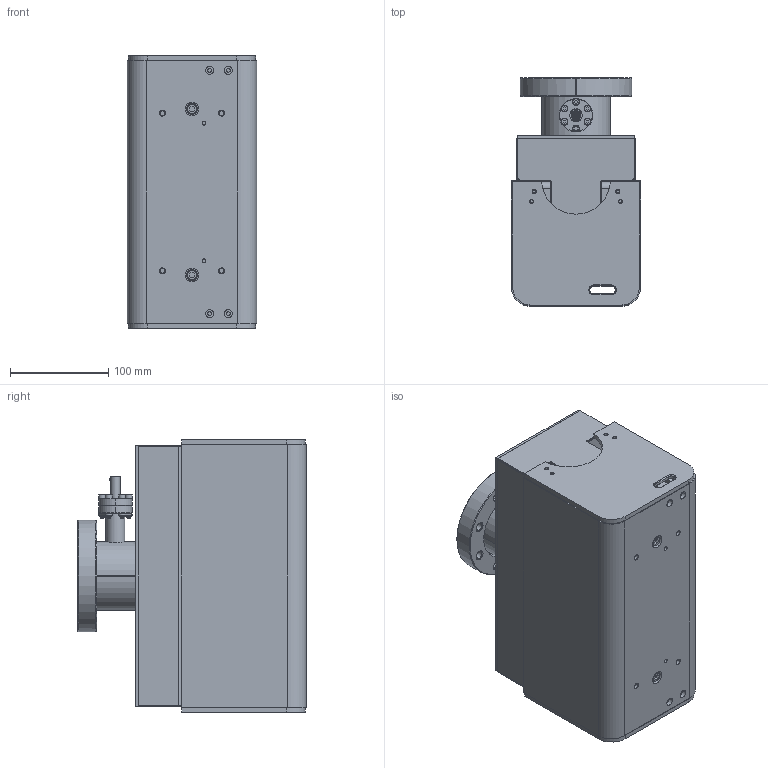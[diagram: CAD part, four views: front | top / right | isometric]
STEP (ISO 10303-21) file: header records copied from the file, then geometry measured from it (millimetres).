
FILE_DESCRIPTION((''),'2;1');
FILE_NAME('75S-XX-4V-XX','2020-12-02T14:43:16',('langebj'),('Gamma Vacuum, LLC'),'CREO PARAMETRIC BY PTC INC, 2020044','CREO PARAMETRIC BY PTC INC, 2020044','');
FILE_SCHEMA(('AUTOMOTIVE_DESIGN { 1 0 10303 214 1 1 1 1 }'));
Products named in the file (1): 75S-XX-4V-XX
Bounding box: 131.2 x 231.66 x 276.65 mm (x, y, z)
Surface area: 675629.3 mm2 (no closed solid volume)
Topology: 0 solids, 0 shells, 1066 faces, 5388 edges, 5354 vertices
Faces by surface type: cylinder 441, plane 403, cone 170, torus 44, bspline 6, sphere 2
Entity records: 79594 total; most frequent: CARTESIAN_POINT 19863, DIRECTION 10254, TRIMMED_CURVE 6878, VECTOR 5639, LINE 5639, DEFINITIONAL_REPRESENTATION 5322, PCURVE 5322, COMPOSITE_CURVE_SEGMENT 5322
